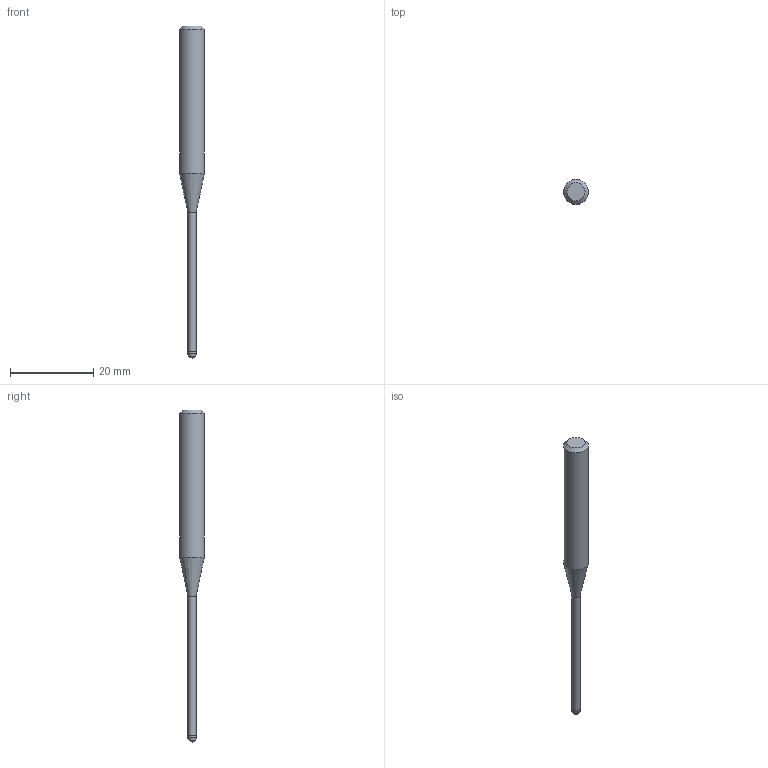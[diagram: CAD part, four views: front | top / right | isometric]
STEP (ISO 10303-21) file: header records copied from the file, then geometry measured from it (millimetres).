
FILE_DESCRIPTION((''),'2;1');
FILE_NAME('C:\Users\nsx150\AppData\Local\Temp\Mastercam 2021\3SYKECWX22\TEMP.step','2021-04-22T10:04:31',(''),(''),'STEP Write','Mastercam 2021 ... CNC Software, Inc.','');
FILE_SCHEMA(('AUTOMOTIVE_DESIGN'));
Length unit declared in the file: millimetre
Products named in the file (1): None
Bounding box: 6 x 6 x 80 mm (x, y, z)
Volume: 1228 mm3; surface area: 1028.3 mm2
Topology: 2 solids, 2 shells, 9 faces, 14 edges, 8 vertices
Faces by surface type: plane 3, cylinder 3, cone 2, sphere 1
Full cylindrical faces by diameter (mm): 1.94 x1, 2 x1, 6 x1
Entity records: 211 total; most frequent: DIRECTION 36, CARTESIAN_POINT 25, AXIS2_PLACEMENT_3D 18, ORIENTED_EDGE 14, EDGE_LOOP 14, STYLED_ITEM 12, ADVANCED_FACE 9, FACE_BOUND 8
